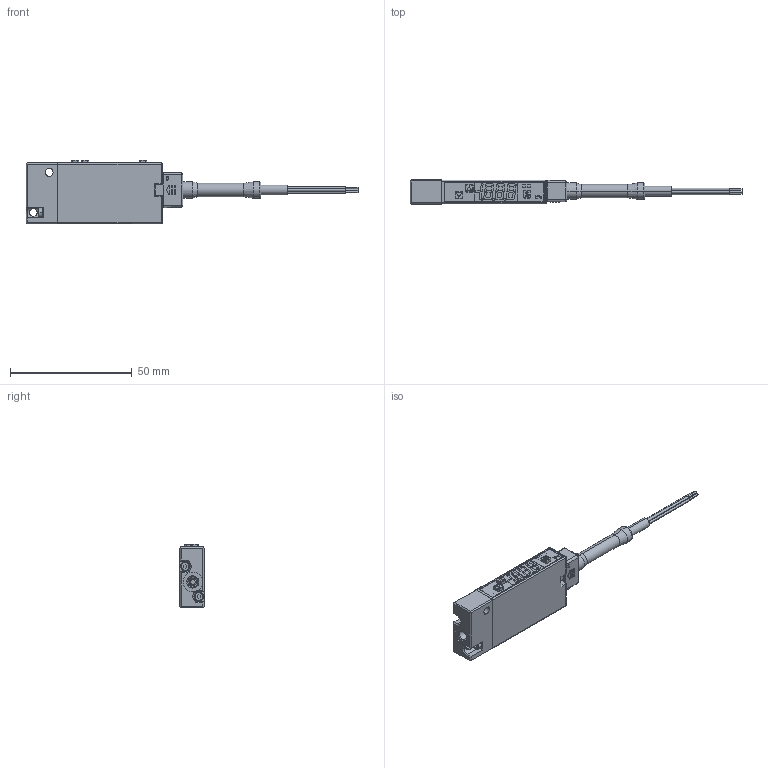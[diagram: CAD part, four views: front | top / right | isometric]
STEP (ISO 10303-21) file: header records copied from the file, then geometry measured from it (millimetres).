
FILE_DESCRIPTION((''),'2;1');
FILE_NAME('KP92_M5PORT_ASM','2022-11-18T',('tommy'),(''),'CREO PARAMETRIC BY PTC INC, 2014500','CREO PARAMETRIC BY PTC INC, 2014500','');
FILE_SCHEMA(('CONFIG_CONTROL_DESIGN'));
Products named in the file (3): KP92_M5; CN-0048-04; KP92_M5PORT_ASM
Assembly tree (2 placements, depth 2):
  KP92_M5PORT_ASM
    KP92_M5
    CN-0048-04
Bounding box: 136.25 x 10 x 26.09 mm (x, y, z)
Volume: 10926.9 mm3; surface area: 16421.5 mm2
Topology: 3 solids, 3 shells, 3083 faces, 8210 edges, 5375 vertices
Faces by surface type: plane 2509, cylinder 422, cone 69, bspline 38, torus 36, sphere 9
Entity records: 99058 total; most frequent: CARTESIAN_POINT 21506, ORIENTED_EDGE 16412, DIRECTION 15125, EDGE_CURVE 8206, VECTOR 7015, LINE 7015, VERTEX_POINT 5375, AXIS2_PLACEMENT_3D 4055
